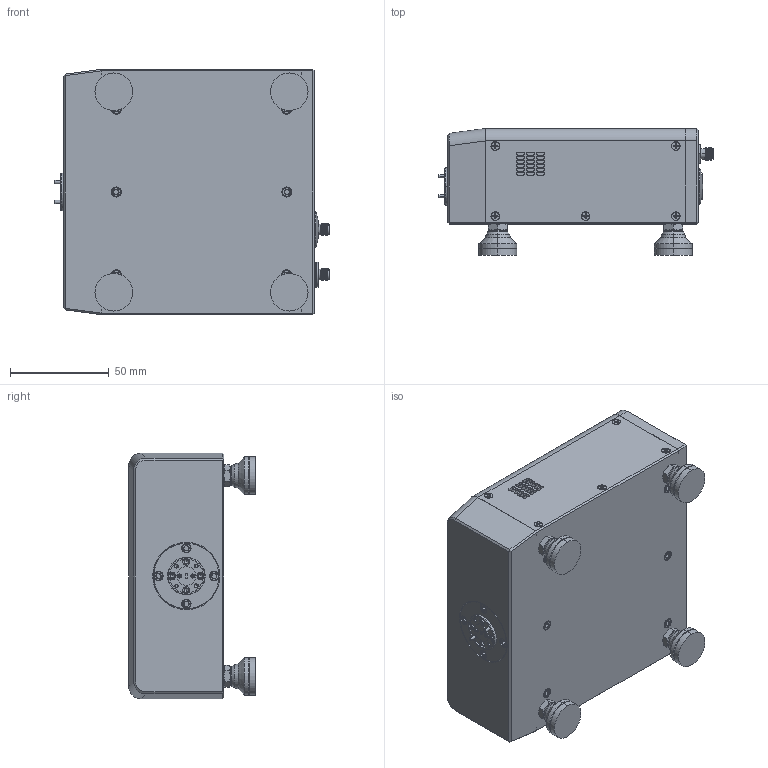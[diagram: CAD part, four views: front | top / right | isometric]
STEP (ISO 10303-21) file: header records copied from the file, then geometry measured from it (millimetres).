
FILE_DESCRIPTION (( 'STEP AP214' ), '1' );
FILE_NAME ('TC-F-A, Deafeatured.STEP', '2024-05-14T21:26:55', ( '' ), ( '' ), 'SwSTEP 2.0', 'SolidWorks 2021', '' );
FILE_SCHEMA (( 'AUTOMOTIVE_DESIGN' ));
Length unit declared in the file: inch
Products named in the file (1): TC-F-A, Deafeatured
Bounding box: 139.21 x 64.14 x 124.32 mm (x, y, z)
Volume: 764635.9 mm3; surface area: 66524.6 mm2
Topology: 3 solids, 4 shells, 1545 faces, 3874 edges, 2446 vertices
Faces by surface type: plane 773, cylinder 435, cone 320, sphere 9, bspline 6, torus 2
Entity records: 67114 total; most frequent: CARTESIAN_POINT 11734, ORIENTED_EDGE 7664, DIRECTION 7360, EDGE_CURVE 3832, AXIS2_PLACEMENT_3D 2721, VERTEX_POINT 2445, VECTOR 1918, LINE 1918
